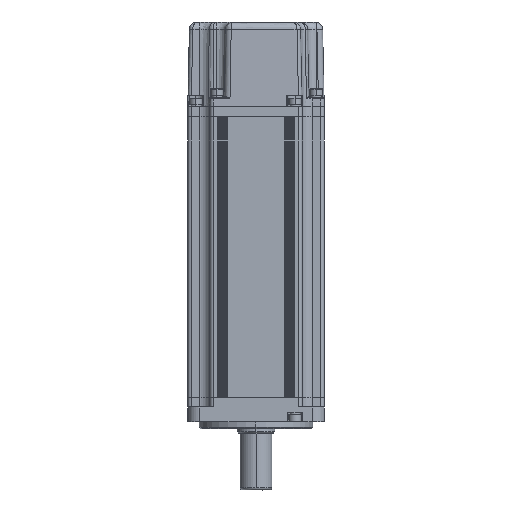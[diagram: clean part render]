
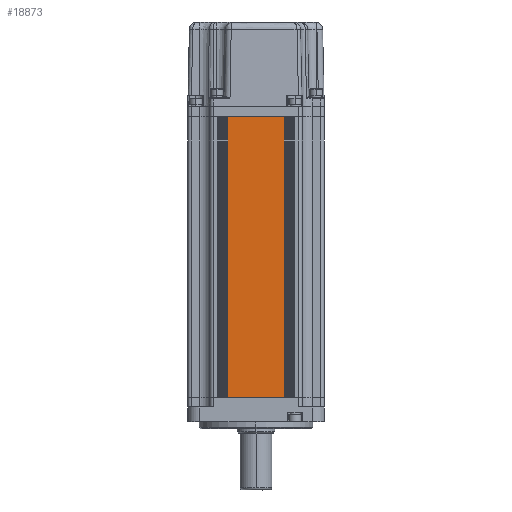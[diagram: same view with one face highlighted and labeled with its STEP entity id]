
A CAD part, left-side view. The second image highlights one B-rep face of the part: STEP entity #18873.
In plain terms, the highlighted planar face has unit normal (-1, 0, 0) as drawn and (1, 0, 0) by its records, which use the part's own axes.
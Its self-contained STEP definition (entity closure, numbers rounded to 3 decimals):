
#12036=DIRECTION('',(0.,1.,0.));
#12037=VECTOR('',#12036,25.);
#12038=CARTESIAN_POINT('',(30.,-12.5,0.));
#12039=LINE('',#12038,#12037);
#13359=DIRECTION('',(0.,1.,0.));
#13360=VECTOR('',#13359,25.);
#13361=CARTESIAN_POINT('',(30.,-12.5,123.5));
#13362=LINE('',#13361,#13360);
#14517=DIRECTION('',(0.,0.,1.));
#14518=VECTOR('',#14517,123.5);
#14519=CARTESIAN_POINT('',(30.,12.5,0.));
#14520=LINE('',#14519,#14518);
#14521=DIRECTION('',(0.,0.,1.));
#14522=VECTOR('',#14521,123.5);
#14523=CARTESIAN_POINT('',(30.,-12.5,0.));
#14524=LINE('',#14523,#14522);
#15640=CARTESIAN_POINT('',(30.,-12.5,0.));
#15642=VERTEX_POINT('',#15640);
#15704=CARTESIAN_POINT('',(30.,-12.5,123.5));
#15706=VERTEX_POINT('',#15704);
#15996=CARTESIAN_POINT('',(30.,12.5,0.));
#15997=VERTEX_POINT('',#15996);
#16028=CARTESIAN_POINT('',(30.,12.5,123.5));
#16029=VERTEX_POINT('',#16028);
#18860=CARTESIAN_POINT('',(30.,-30.,0.));
#18861=DIRECTION('',(1.,0.,0.));
#18862=DIRECTION('',(0.,1.,0.));
#18863=AXIS2_PLACEMENT_3D('',#18860,#18861,#18862);
#18864=PLANE('',#18863);
#18866=ORIENTED_EDGE('',*,*,#18865,.F.);
#18867=ORIENTED_EDGE('',*,*,#16381,.F.);
#18869=ORIENTED_EDGE('',*,*,#18868,.T.);
#18870=ORIENTED_EDGE('',*,*,#17433,.T.);
#18871=EDGE_LOOP('',(#18866,#18867,#18869,#18870));
#18872=FACE_OUTER_BOUND('',#18871,.F.);
#16381=EDGE_CURVE('',#15642,#15997,#12039,.T.);
#17433=EDGE_CURVE('',#15706,#16029,#13362,.T.);
#18865=EDGE_CURVE('',#15997,#16029,#14520,.T.);
#18868=EDGE_CURVE('',#15642,#15706,#14524,.T.);
#18873=ADVANCED_FACE('',(#18872),#18864,.T.);
